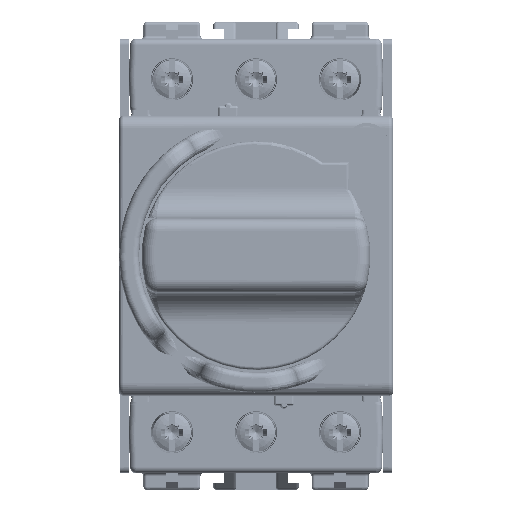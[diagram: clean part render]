
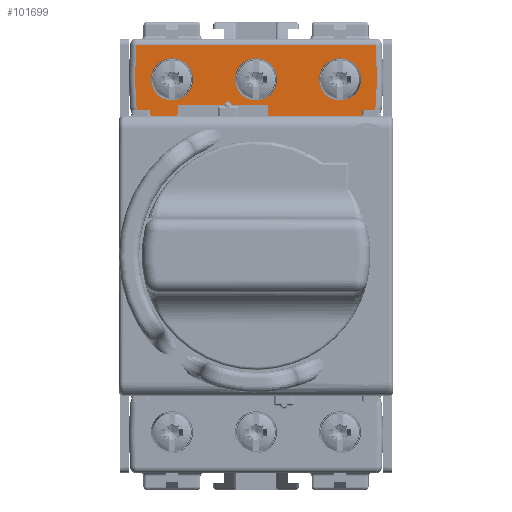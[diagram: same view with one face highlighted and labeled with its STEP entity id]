
A CAD part, top view. The second image highlights one B-rep face of the part: STEP entity #101699.
In plain terms, the highlighted planar face has unit normal (0, 0, 1).
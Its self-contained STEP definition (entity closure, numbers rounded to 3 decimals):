
#98498=AXIS2_PLACEMENT_3D('Circle Axis2P3D',#98496,#98497,$) ;
#98517=AXIS2_PLACEMENT_3D('Circle Axis2P3D',#98515,#98516,$) ;
#98536=AXIS2_PLACEMENT_3D('Circle Axis2P3D',#98534,#98535,$) ;
#98555=AXIS2_PLACEMENT_3D('Circle Axis2P3D',#98553,#98554,$) ;
#98579=AXIS2_PLACEMENT_3D('Circle Axis2P3D',#98577,#98578,$) ;
#98607=AXIS2_PLACEMENT_3D('Circle Axis2P3D',#98605,#98606,$) ;
#98635=AXIS2_PLACEMENT_3D('Circle Axis2P3D',#98633,#98634,$) ;
#98705=AXIS2_PLACEMENT_3D('Circle Axis2P3D',#98703,#98704,$) ;
#98861=AXIS2_PLACEMENT_3D('Circle Axis2P3D',#98859,#98860,$) ;
#101652=AXIS2_PLACEMENT_3D('Plane Axis2P3D',#101649,#101650,#101651) ;
#98493=CARTESIAN_POINT('Vertex',(-16.475,7.6,18.)) ;
#98496=CARTESIAN_POINT('Axis2P3D Location',(-13.5,5.975,18.)) ;
#98500=CARTESIAN_POINT('Vertex',(-10.525,4.35,18.)) ;
#98515=CARTESIAN_POINT('Axis2P3D Location',(-13.5,5.975,18.)) ;
#98531=CARTESIAN_POINT('Vertex',(-2.975,7.6,18.)) ;
#98534=CARTESIAN_POINT('Axis2P3D Location',(0.,5.975,18.)) ;
#98538=CARTESIAN_POINT('Vertex',(2.975,4.35,18.)) ;
#98553=CARTESIAN_POINT('Axis2P3D Location',(0.,5.975,18.)) ;
#98574=CARTESIAN_POINT('Vertex',(10.525,7.6,18.)) ;
#98577=CARTESIAN_POINT('Axis2P3D Location',(13.5,5.975,18.)) ;
#98581=CARTESIAN_POINT('Vertex',(16.475,4.35,18.)) ;
#98605=CARTESIAN_POINT('Axis2P3D Location',(13.5,5.975,18.)) ;
#98630=CARTESIAN_POINT('Vertex',(-3.988,1.92,18.)) ;
#98633=CARTESIAN_POINT('Axis2P3D Location',(-4.5,1.92,18.)) ;
#98637=CARTESIAN_POINT('Vertex',(-5.013,1.92,18.)) ;
#98654=CARTESIAN_POINT('Line Origine',(-8.801,1.92,18.)) ;
#98658=CARTESIAN_POINT('Vertex',(-12.59,1.92,18.)) ;
#98678=CARTESIAN_POINT('Line Origine',(-12.59,1.21,18.)) ;
#98682=CARTESIAN_POINT('Vertex',(-12.59,0.5,18.)) ;
#98703=CARTESIAN_POINT('Axis2P3D Location',(-13.09,0.5,18.)) ;
#98707=CARTESIAN_POINT('Vertex',(-13.09,0.,18.)) ;
#98734=CARTESIAN_POINT('Vertex',(-18.753,0.,18.)) ;
#98737=CARTESIAN_POINT('Line Origine',(-20.664,6.25,18.)) ;
#98741=CARTESIAN_POINT('Vertex',(-19.262,1.666,18.)) ;
#98763=CARTESIAN_POINT('Line Origine',(-19.422,6.25,18.)) ;
#98767=CARTESIAN_POINT('Vertex',(-19.424,6.313,18.)) ;
#98799=CARTESIAN_POINT('Vertex',(19.262,1.666,18.)) ;
#98812=CARTESIAN_POINT('Vertex',(19.424,6.313,18.)) ;
#98815=CARTESIAN_POINT('Line Origine',(19.422,6.25,18.)) ;
#98839=CARTESIAN_POINT('Vertex',(18.753,0.,18.)) ;
#98842=CARTESIAN_POINT('Line Origine',(20.664,6.25,18.)) ;
#98859=CARTESIAN_POINT('Axis2P3D Location',(2.35,0.5,18.)) ;
#98863=CARTESIAN_POINT('Vertex',(2.35,0.,18.)) ;
#98865=CARTESIAN_POINT('Vertex',(1.85,0.5,18.)) ;
#98890=CARTESIAN_POINT('Line Origine',(1.85,1.21,18.)) ;
#98894=CARTESIAN_POINT('Vertex',(1.85,1.92,18.)) ;
#98910=CARTESIAN_POINT('Line Origine',(-1.069,1.92,18.)) ;
#98934=CARTESIAN_POINT('Line Origine',(-19.427,6.25,18.)) ;
#98938=CARTESIAN_POINT('Vertex',(-19.243,11.5,18.)) ;
#98958=CARTESIAN_POINT('Line Origine',(19.427,6.25,18.)) ;
#98962=CARTESIAN_POINT('Vertex',(19.243,11.5,18.)) ;
#101649=CARTESIAN_POINT('Axis2P3D Location',(0.,0.,18.)) ;
#101654=CARTESIAN_POINT('Line Origine',(10.551,0.,18.)) ;
#101659=CARTESIAN_POINT('Line Origine',(0.,11.5,18.)) ;
#101664=CARTESIAN_POINT('Line Origine',(-15.921,0.,18.)) ;
#98497=DIRECTION('Axis2P3D Direction',(-0.,0.,1.)) ;
#98516=DIRECTION('Axis2P3D Direction',(-0.,0.,1.)) ;
#98535=DIRECTION('Axis2P3D Direction',(-0.,0.,1.)) ;
#98554=DIRECTION('Axis2P3D Direction',(-0.,0.,1.)) ;
#98578=DIRECTION('Axis2P3D Direction',(-0.,0.,1.)) ;
#98606=DIRECTION('Axis2P3D Direction',(-0.,0.,1.)) ;
#98634=DIRECTION('Axis2P3D Direction',(0.,0.,1.)) ;
#98655=DIRECTION('Vector Direction',(1.,0.,0.)) ;
#98679=DIRECTION('Vector Direction',(0.,1.,0.)) ;
#98704=DIRECTION('Axis2P3D Direction',(0.,0.,-1.)) ;
#98738=DIRECTION('Vector Direction',(0.292,-0.956,0.)) ;
#98764=DIRECTION('Vector Direction',(0.035,-0.999,0.)) ;
#98816=DIRECTION('Vector Direction',(0.035,0.999,0.)) ;
#98843=DIRECTION('Vector Direction',(-0.292,-0.956,0.)) ;
#98860=DIRECTION('Axis2P3D Direction',(0.,0.,1.)) ;
#98891=DIRECTION('Vector Direction',(0.,1.,0.)) ;
#98911=DIRECTION('Vector Direction',(1.,0.,0.)) ;
#98935=DIRECTION('Vector Direction',(-0.035,-0.999,0.)) ;
#98959=DIRECTION('Vector Direction',(-0.035,0.999,0.)) ;
#101650=DIRECTION('Axis2P3D Direction',(0.,0.,1.)) ;
#101651=DIRECTION('Axis2P3D XDirection',(1.,0.,0.)) ;
#101655=DIRECTION('Vector Direction',(1.,0.,0.)) ;
#101660=DIRECTION('Vector Direction',(1.,0.,0.)) ;
#101665=DIRECTION('Vector Direction',(1.,0.,0.)) ;
#98656=VECTOR('Line Direction',#98655,1.) ;
#98680=VECTOR('Line Direction',#98679,1.) ;
#98739=VECTOR('Line Direction',#98738,1.) ;
#98765=VECTOR('Line Direction',#98764,1.) ;
#98817=VECTOR('Line Direction',#98816,1.) ;
#98844=VECTOR('Line Direction',#98843,1.) ;
#98892=VECTOR('Line Direction',#98891,1.) ;
#98912=VECTOR('Line Direction',#98911,1.) ;
#98936=VECTOR('Line Direction',#98935,1.) ;
#98960=VECTOR('Line Direction',#98959,1.) ;
#101656=VECTOR('Line Direction',#101655,1.) ;
#101661=VECTOR('Line Direction',#101660,1.) ;
#101666=VECTOR('Line Direction',#101665,1.) ;
#101670=ORIENTED_EDGE('',*,*,#98914,.T.) ;
#101671=ORIENTED_EDGE('',*,*,#98896,.F.) ;
#101672=ORIENTED_EDGE('',*,*,#98867,.F.) ;
#101673=ORIENTED_EDGE('',*,*,#101658,.T.) ;
#101674=ORIENTED_EDGE('',*,*,#98846,.F.) ;
#101675=ORIENTED_EDGE('',*,*,#98819,.F.) ;
#101676=ORIENTED_EDGE('',*,*,#98964,.F.) ;
#101677=ORIENTED_EDGE('',*,*,#101663,.T.) ;
#101678=ORIENTED_EDGE('',*,*,#98940,.T.) ;
#101679=ORIENTED_EDGE('',*,*,#98769,.T.) ;
#101680=ORIENTED_EDGE('',*,*,#98743,.T.) ;
#101681=ORIENTED_EDGE('',*,*,#101668,.T.) ;
#101682=ORIENTED_EDGE('',*,*,#98709,.F.) ;
#101683=ORIENTED_EDGE('',*,*,#98684,.T.) ;
#101684=ORIENTED_EDGE('',*,*,#98660,.T.) ;
#101685=ORIENTED_EDGE('',*,*,#98639,.F.) ;
#101688=ORIENTED_EDGE('',*,*,#98609,.F.) ;
#101689=ORIENTED_EDGE('',*,*,#98583,.F.) ;
#101692=ORIENTED_EDGE('',*,*,#98557,.F.) ;
#101693=ORIENTED_EDGE('',*,*,#98540,.F.) ;
#101696=ORIENTED_EDGE('',*,*,#98519,.F.) ;
#101697=ORIENTED_EDGE('',*,*,#98502,.F.) ;
#101690=FACE_BOUND('',#101687,.T.) ;
#101694=FACE_BOUND('',#101691,.T.) ;
#101698=FACE_BOUND('',#101695,.T.) ;
#101699=ADVANCED_FACE('Corps principal',(#101686,#101690,#101694,#101698),#101653,.T.) ;
#98499=CIRCLE('generated circle',#98498,3.39) ;
#98518=CIRCLE('generated circle',#98517,3.39) ;
#98537=CIRCLE('generated circle',#98536,3.39) ;
#98556=CIRCLE('generated circle',#98555,3.39) ;
#98580=CIRCLE('generated circle',#98579,3.39) ;
#98608=CIRCLE('generated circle',#98607,3.39) ;
#98636=CIRCLE('generated circle',#98635,0.513) ;
#98706=CIRCLE('generated circle',#98705,0.5) ;
#98862=CIRCLE('generated circle',#98861,0.5) ;
#98502=EDGE_CURVE('',#98494,#98501,#98499,.T.) ;
#98519=EDGE_CURVE('',#98501,#98494,#98518,.T.) ;
#98540=EDGE_CURVE('',#98532,#98539,#98537,.T.) ;
#98557=EDGE_CURVE('',#98539,#98532,#98556,.T.) ;
#98583=EDGE_CURVE('',#98575,#98582,#98580,.T.) ;
#98609=EDGE_CURVE('',#98582,#98575,#98608,.T.) ;
#98639=EDGE_CURVE('',#98631,#98638,#98636,.T.) ;
#98660=EDGE_CURVE('',#98659,#98638,#98657,.T.) ;
#98684=EDGE_CURVE('',#98683,#98659,#98681,.T.) ;
#98709=EDGE_CURVE('',#98683,#98708,#98706,.T.) ;
#98743=EDGE_CURVE('',#98742,#98735,#98740,.T.) ;
#98769=EDGE_CURVE('',#98768,#98742,#98766,.T.) ;
#98819=EDGE_CURVE('',#98813,#98800,#98818,.F.) ;
#98846=EDGE_CURVE('',#98800,#98840,#98845,.T.) ;
#98867=EDGE_CURVE('',#98864,#98866,#98862,.F.) ;
#98896=EDGE_CURVE('',#98866,#98895,#98893,.T.) ;
#98914=EDGE_CURVE('',#98631,#98895,#98913,.T.) ;
#98940=EDGE_CURVE('',#98939,#98768,#98937,.T.) ;
#98964=EDGE_CURVE('',#98963,#98813,#98961,.F.) ;
#101658=EDGE_CURVE('',#98864,#98840,#101657,.T.) ;
#101663=EDGE_CURVE('',#98963,#98939,#101662,.F.) ;
#101668=EDGE_CURVE('',#98735,#98708,#101667,.T.) ;
#101669=EDGE_LOOP('',(#101670,#101671,#101672,#101673,#101674,#101675,#101676,#101677,#101678,#101679,#101680,#101681,#101682,#101683,#101684,#101685)) ;
#101687=EDGE_LOOP('',(#101688,#101689)) ;
#101691=EDGE_LOOP('',(#101692,#101693)) ;
#101695=EDGE_LOOP('',(#101696,#101697)) ;
#101686=FACE_OUTER_BOUND('',#101669,.T.) ;
#98657=LINE('Line',#98654,#98656) ;
#98681=LINE('Line',#98678,#98680) ;
#98740=LINE('Line',#98737,#98739) ;
#98766=LINE('Line',#98763,#98765) ;
#98818=LINE('Line',#98815,#98817) ;
#98845=LINE('Line',#98842,#98844) ;
#98893=LINE('Line',#98890,#98892) ;
#98913=LINE('Line',#98910,#98912) ;
#98937=LINE('Line',#98934,#98936) ;
#98961=LINE('Line',#98958,#98960) ;
#101657=LINE('Line',#101654,#101656) ;
#101662=LINE('Line',#101659,#101661) ;
#101667=LINE('Line',#101664,#101666) ;
#101653=PLANE('',#101652) ;
#98494=VERTEX_POINT('',#98493) ;
#98501=VERTEX_POINT('',#98500) ;
#98532=VERTEX_POINT('',#98531) ;
#98539=VERTEX_POINT('',#98538) ;
#98575=VERTEX_POINT('',#98574) ;
#98582=VERTEX_POINT('',#98581) ;
#98631=VERTEX_POINT('',#98630) ;
#98638=VERTEX_POINT('',#98637) ;
#98659=VERTEX_POINT('',#98658) ;
#98683=VERTEX_POINT('',#98682) ;
#98708=VERTEX_POINT('',#98707) ;
#98735=VERTEX_POINT('',#98734) ;
#98742=VERTEX_POINT('',#98741) ;
#98768=VERTEX_POINT('',#98767) ;
#98800=VERTEX_POINT('',#98799) ;
#98813=VERTEX_POINT('',#98812) ;
#98840=VERTEX_POINT('',#98839) ;
#98864=VERTEX_POINT('',#98863) ;
#98866=VERTEX_POINT('',#98865) ;
#98895=VERTEX_POINT('',#98894) ;
#98939=VERTEX_POINT('',#98938) ;
#98963=VERTEX_POINT('',#98962) ;
